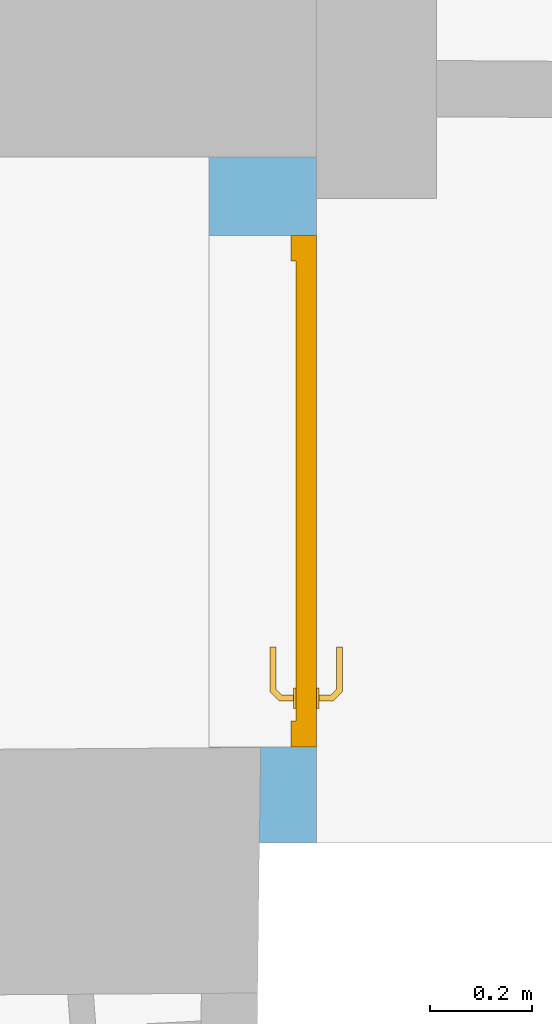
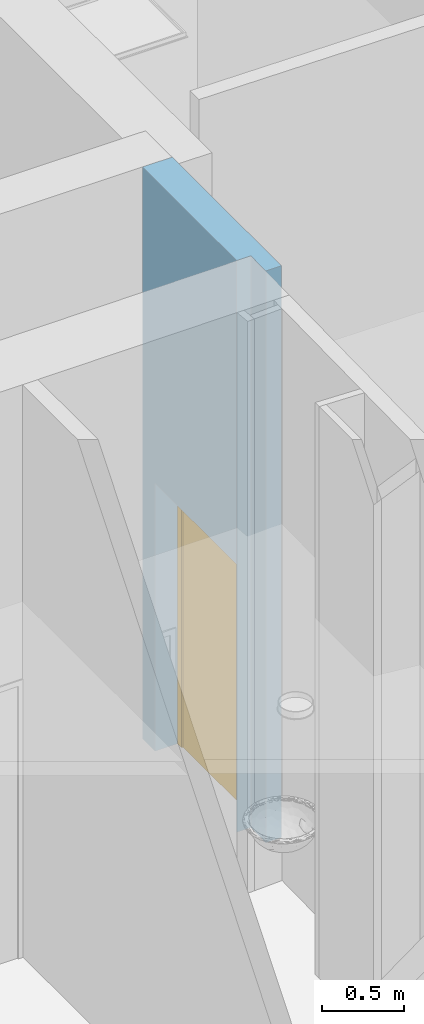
# One storey, part 42 of 128: 1 door, 1 opening, plus 1 element that does not belong to this part.
"""IFC2X3 building model written with IfcOpenShell, lengths in metres."""

from ifc_helpers import new_model, entity, si_unit, converted_unit, derived_unit, direction, frame, frame_2d, origin, place, context, subcontext, project, spatial, rectangle, extrude, faceted_brep, source, transform, mapped, material, layer, layer_set, type_object, type_shapes, element, fill, save


model = new_model("IFC2X3")

# Units and contexts
model_context = context("Model", 3, precision=1e-05, world=origin(), true_north=direction((6.123031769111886e-17, 1.0)))
body_context = subcontext(model_context, "Body", "Model", "MODEL_VIEW")
ifc_project = project(units=[si_unit("LENGTHUNIT", "METRE"), si_unit("AREAUNIT", "SQUARE_METRE"), converted_unit("PLANEANGLEUNIT", "DEGREE", entity("IfcPlaneAngleMeasure", 0.017453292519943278), si_unit("PLANEANGLEUNIT", "RADIAN"), dimensions=[0, 0, 0, 0, 0, 0, 0]), derived_unit("THERMALTRANSMITTANCEUNIT", [(si_unit("MASSUNIT", "GRAM", prefix="KILO"), 1), (si_unit("THERMODYNAMICTEMPERATUREUNIT", "KELVIN"), -1), (si_unit("TIMEUNIT", "SECOND"), -3)])], contexts=[model_context])

# Site, building, storey
site_placement = place(None, origin())
site = spatial("IfcSite", under=ifc_project, at=site_placement, Name="Default", CompositionType="ELEMENT")
building_placement = place(site_placement, origin())
building = spatial("IfcBuilding", under=site, at=building_placement, CompositionType="ELEMENT")
storey_placement = place(building_placement, origin())
storey = spatial("IfcBuildingStorey", under=building, at=storey_placement, Name="00_RDC CAF", CompositionType="ELEMENT", Elevation=2.4982504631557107e-13)

# Wall, opening, door
ifc_material_1 = material(Name="STR - Beton Mur")
ifc_layer = layer(ifc_material_1, 0.20999999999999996)
ifc_layer_set = layer_set([ifc_layer], Name="Mur de base:M_Int_Beton_210mm")
wall_type = type_object("IfcWallType", Name="Mur de base:M_Int_Beton_210mm", PredefinedType="STANDARD", material=ifc_layer_set)
wall_placement = place(storey_placement, frame((30.553265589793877, 131.55552141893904, 0.0), z_axis=(0.0, 0.0, 1.0), x_axis=(0.0, -1.0, 0.0)))
wall = element("IfcWall", 1, at=wall_placement, inside=storey, type_object=wall_type, Name="Mur de base:M_Int_Beton_210mm", ObjectType="Mur de base:M_Int_Beton_210mm", context=body_context, shape_type="Brep", body=[
    faceted_brep([(0.0, -0.10500000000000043, 0.0), (0.1527245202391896, -0.10500000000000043, 0.0), (0.1527245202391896, -0.10500000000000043, 2.0050000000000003), (1.1527245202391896, -0.10500000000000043, 2.0050000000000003), (1.1527245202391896, -0.10500000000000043, 0.0), (1.1548155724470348, -0.10500000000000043, 0.0), (1.1548155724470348, -0.10500000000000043, 4.278), (0.0, -0.10500000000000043, 4.278), (1.3405848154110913, 0.10500000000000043, 4.278), (1.3405848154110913, 0.10500000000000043, 0.0), (1.1527245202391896, 0.10500000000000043, 0.0), (1.1527245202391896, 0.10500000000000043, 2.0050000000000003), (0.1527245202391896, 0.10500000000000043, 2.0050000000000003), (0.1527245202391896, 0.10500000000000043, 0.0), (0.08097166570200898, 0.10500000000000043, 0.0), (0.0, 0.10500000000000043, 0.0), (0.0, 0.10500000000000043, 4.278), (0.08097166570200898, 0.10500000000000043, 4.278), (1.3405848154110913, -0.0063559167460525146, 4.278), (1.3405848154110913, -0.006355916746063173, 0.0), (1.154123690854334, -0.004082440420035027, 4.278), (1.154123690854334, -0.004082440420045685, 0.0)], [[[0, 1, 2, 3, 4, 5, 6, 7]], [[8, 9, 10, 11, 12, 13, 14, 15, 16, 17]], [[1, 0, 15, 14, 13]], [[9, 8, 18, 19]], [[8, 17, 16, 7, 6, 20, 18]], [[2, 12, 11, 3]], [[12, 2, 1, 13]], [[3, 11, 10, 4]], [[21, 20, 6, 5]], [[20, 21, 19, 18]], [[0, 7, 16, 15]], [[10, 9, 19, 21, 5, 4]]]),
])
opening_placement = place(wall_placement, frame((0.15272452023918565, -0.10499999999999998, 0.0)))
opening = element("IfcOpeningElement", 2, at=opening_placement, cuts=wall, Name="P_Tunnel_Simple:P_Int_Simple_Pleine_930x1970mm:1", ObjectType="Opening", context=body_context, shape_type="SweptSolid", body=[
    extrude(rectangle(XDim=2.005, YDim=1.0, at=frame_2d((1.0025, 0.5), x_axis=(1.0, 0.0))), frame((0.0, 0.0, 0.0), z_axis=(0.0, 1.0, 0.0), x_axis=(0.0, 0.0, 1.0)), (0.0, 0.0, 1.0), 0.20999999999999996),
])
ifc_material_2 = material(Name="ARC - M.In - Blanc")
door_style = type_object("IfcDoorStyle", Name="P_Tunnel_Simple:P_Int_Simple_Pleine_930x1970mm", ConstructionType="NOTDEFINED", OperationType="NOTDEFINED", ParameterTakesPrecedence=False, Sizeable=False, material=ifc_material_2)
shared_shape = source(origin(), body_context, "Body", "Brep", [
    faceted_brep([(1.0929747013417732, 0.04500000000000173, 1.0077804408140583), (1.0890000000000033, 0.045000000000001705, 1.0069999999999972), (1.0889999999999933, 0.045000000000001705, 0.9929999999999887), (1.0929747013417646, 0.04500000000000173, 0.9922195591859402), (1.0970252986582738, 0.04500000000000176, 0.9922195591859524), (1.1010000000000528, 0.04500000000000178, 0.9930000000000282), (1.1010000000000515, 0.04500000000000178, 1.006999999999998), (1.0970252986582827, 0.04500000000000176, 1.0077804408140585), (1.1010000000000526, 0.06748520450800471, 0.9930000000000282), (1.1010000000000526, 0.06748520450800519, 1.006999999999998), (1.0970252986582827, 0.06913157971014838, 1.0077804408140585), (1.1108389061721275, 0.08294518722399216, 1.0077804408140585), (1.1091610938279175, 0.08699578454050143, 1.0077804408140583), (1.0929747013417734, 0.07080939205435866, 1.0077804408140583), (1.0890000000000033, 0.07245576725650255, 1.0069999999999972), (1.089000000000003, 0.07245576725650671, 0.9929999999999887), (1.0929747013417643, 0.07080939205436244, 0.9922195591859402), (1.1091610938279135, 0.08699578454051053, 0.9922195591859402), (1.1108389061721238, 0.08294518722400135, 0.9922195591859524), (1.0970252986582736, 0.0691315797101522, 0.9922195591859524), (1.112485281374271, 0.07897048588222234, 0.9930000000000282), (1.1124852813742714, 0.07897048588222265, 1.006999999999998), (1.1075147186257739, 0.09097048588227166, 1.0069999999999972), (1.1075147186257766, 0.09097048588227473, 0.9929999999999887), (1.1950457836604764, 0.07897048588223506, 0.9930000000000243), (1.1950457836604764, 0.08294518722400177, 0.9922195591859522), (1.1950457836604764, 0.08699578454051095, 0.99221955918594), (1.1950457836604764, 0.09097048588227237, 0.9929999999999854), (1.1950457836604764, 0.09097048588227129, 1.0069999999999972), (1.1950457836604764, 0.0869957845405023, 1.007780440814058), (1.1950457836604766, 0.08294518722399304, 1.0077804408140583), (1.1950457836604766, 0.07897048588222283, 1.0069999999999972), (1.1537655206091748, 0.07897048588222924, 0.9930000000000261), (1.1537655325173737, 0.07897048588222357, 1.0069999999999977), (1.152942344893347, 0.08497048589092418, 1.0078786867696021), (1.1474452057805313, 0.09097048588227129, 1.0069999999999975), (1.1474452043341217, 0.09097048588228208, 0.9929999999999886), (1.1529423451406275, 0.08497048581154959, 0.9921213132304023)], [[[0, 1, 2, 3, 4, 5, 6, 7]], [[6, 5, 8, 9]], [[9, 10, 7, 6]], [[10, 11, 12, 13, 0, 7]], [[13, 14, 1, 0]], [[2, 1, 14, 15]], [[15, 16, 3, 2]], [[16, 17, 18, 19, 4, 3]], [[19, 8, 5, 4]], [[9, 8, 20, 21]], [[21, 11, 10, 9]], [[12, 22, 14, 13]], [[15, 14, 22, 23]], [[23, 17, 16, 15]], [[18, 20, 8, 19]], [[24, 25, 26, 27, 28, 29, 30, 31]], [[21, 20, 32, 24, 31, 33]], [[33, 30, 34]], [[35, 34, 29]], [[21, 33, 11]], [[33, 31, 30]], [[28, 35, 29]], [[22, 12, 35]], [[35, 12, 34]], [[12, 11, 34]], [[11, 33, 34]], [[29, 34, 30]], [[22, 35, 28, 27, 36, 23]], [[36, 26, 37]], [[27, 26, 36]], [[17, 23, 36]], [[37, 32, 18]], [[20, 18, 32]], [[32, 25, 24]], [[26, 25, 37]], [[25, 32, 37]], [[17, 36, 37]], [[17, 37, 18]]]),
    faceted_brep([(1.09297470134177, -0.004999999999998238, 1.0077804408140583), (1.0970252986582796, -0.00499999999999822, 1.0077804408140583), (1.1010000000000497, -0.0049999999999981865, 1.006999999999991), (1.101000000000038, -0.0049999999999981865, 0.9930000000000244), (1.0970252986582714, -0.00499999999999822, 0.9922195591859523), (1.0929747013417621, -0.004999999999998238, 0.9922195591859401), (1.0890000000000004, -0.0049999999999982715, 0.9929999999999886), (1.0890000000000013, -0.0049999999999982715, 1.0069999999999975), (1.0890000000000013, -0.032650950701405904, 1.0069999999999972), (1.09297470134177, -0.031004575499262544, 1.0077804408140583), (1.1090235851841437, -0.04705345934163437, 1.0077804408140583), (1.1107013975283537, -0.04300286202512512, 1.0077804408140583), (1.0970252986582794, -0.029326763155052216, 1.0077804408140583), (1.1010000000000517, -0.02768038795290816, 1.0069999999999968), (1.10100000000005, -0.027680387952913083, 0.9930000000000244), (1.0970252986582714, -0.0293267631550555, 0.9922195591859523), (1.1107013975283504, -0.043002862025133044, 0.9922195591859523), (1.1090235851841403, -0.04705345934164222, 0.9922195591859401), (1.0929747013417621, -0.031004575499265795, 0.9922195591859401), (1.0889999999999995, -0.03265095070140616, 0.9929999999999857), (1.1073772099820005, -0.05102816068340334, 1.0069999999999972), (1.1123477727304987, -0.039028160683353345, 1.0069999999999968), (1.112347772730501, -0.039028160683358, 0.9930000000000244), (1.1073772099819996, -0.05102816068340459, 0.9929999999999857), (1.195018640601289, -0.05102816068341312, 0.9929999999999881), (1.195018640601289, -0.047053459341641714, 0.9922195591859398), (1.195018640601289, -0.04300286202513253, 0.992219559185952), (1.195018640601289, -0.039028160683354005, 0.9930000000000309), (1.195018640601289, -0.03902816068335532, 1.0069999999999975), (1.195018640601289, -0.04300286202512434, 1.007780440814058), (1.195018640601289, -0.047053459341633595, 1.0077804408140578), (1.195018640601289, -0.051028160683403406, 1.0069999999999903), (1.14730769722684, -0.051028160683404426, 1.0069999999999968), (1.1528600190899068, -0.04502816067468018, 1.007878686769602), (1.1536832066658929, -0.03902816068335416, 1.0069999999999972), (1.1536832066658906, -0.039028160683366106, 0.9930000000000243), (1.152860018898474, -0.04502816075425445, 0.9921213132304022), (1.147307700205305, -0.05102816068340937, 0.992999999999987)], [[[0, 1, 2, 3, 4, 5, 6, 7]], [[8, 9, 0, 7]], [[9, 10, 11, 12, 1, 0]], [[12, 13, 2, 1]], [[3, 2, 13, 14]], [[14, 15, 4, 3]], [[15, 16, 17, 18, 5, 4]], [[18, 19, 6, 5]], [[7, 6, 19, 8]], [[20, 10, 9, 8]], [[11, 21, 13, 12]], [[14, 13, 21, 22]], [[22, 16, 15, 14]], [[17, 23, 19, 18]], [[8, 19, 23, 20]], [[24, 25, 26, 27, 28, 29, 30, 31]], [[32, 30, 33]], [[31, 30, 32]], [[10, 20, 32]], [[33, 34, 11]], [[21, 11, 34]], [[34, 29, 28]], [[30, 29, 33]], [[29, 34, 33]], [[10, 32, 33]], [[10, 33, 11]], [[22, 21, 34, 28, 27, 35]], [[35, 26, 36]], [[37, 36, 25]], [[22, 35, 16]], [[35, 27, 26]], [[24, 37, 25]], [[23, 17, 37]], [[37, 17, 36]], [[17, 16, 36]], [[16, 35, 36]], [[25, 36, 26]], [[20, 23, 37, 24, 31, 32]]]),
    faceted_brep([(1.1053527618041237, 0.04000000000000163, 0.866003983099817), (1.1150000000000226, 0.040000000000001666, 0.8700000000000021), (1.1150000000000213, 0.040000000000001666, 1.0800000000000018), (1.1053527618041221, 0.04000000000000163, 1.083996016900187), (1.0950000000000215, 0.04000000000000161, 1.0853589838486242), (1.084647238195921, 0.040000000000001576, 1.0839960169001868), (1.075000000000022, 0.04000000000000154, 1.0800000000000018), (1.0750000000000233, 0.04000000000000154, 0.8700000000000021), (1.0846472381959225, 0.040000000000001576, 0.8660039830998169), (1.095000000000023, 0.04000000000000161, 0.8646410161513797), (1.1053527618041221, 0.04500000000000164, 1.083996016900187), (1.115000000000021, 0.04500000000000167, 1.0800000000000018), (1.1150000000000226, 0.04500000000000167, 0.8700000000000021), (1.1053527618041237, 0.04500000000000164, 0.866003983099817), (1.095000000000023, 0.045000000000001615, 0.8646410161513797), (1.0846472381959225, 0.04500000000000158, 0.8660039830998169), (1.0750000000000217, 0.045000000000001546, 0.870000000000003), (1.075000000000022, 0.045000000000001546, 1.0800000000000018), (1.084647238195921, 0.04500000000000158, 1.0839960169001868), (1.0950000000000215, 0.045000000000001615, 1.0853589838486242)], [[[0, 1, 2, 3, 4, 5, 6, 7, 8, 9]], [[10, 11, 12, 13, 14, 15, 16, 17, 18, 19]], [[11, 10, 3, 2]], [[3, 10, 19, 4]], [[19, 18, 5, 4]], [[18, 17, 6, 5]], [[7, 6, 17, 16]], [[16, 15, 8, 7]], [[8, 15, 14, 9]], [[14, 13, 0, 9]], [[13, 12, 1, 0]], [[2, 1, 12, 11]]]),
    faceted_brep([(1.105352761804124, -0.004999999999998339, 0.866003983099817), (1.1150000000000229, -0.004999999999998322, 0.8700000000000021), (1.1150000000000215, -0.004999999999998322, 1.0800000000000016), (1.1053527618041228, -0.004999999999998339, 1.0839960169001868), (1.095000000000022, -0.004999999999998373, 1.0853589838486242), (1.0846472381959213, -0.004999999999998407, 1.083996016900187), (1.0750000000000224, -0.004999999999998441, 1.0800000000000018), (1.0750000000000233, -0.004999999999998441, 0.8700000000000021), (1.0846472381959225, -0.004999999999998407, 0.866003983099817), (1.095000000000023, -0.004999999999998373, 0.8646410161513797), (1.1053527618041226, 0.0, 1.0839960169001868), (1.1150000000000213, 0.0, 1.0800000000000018), (1.1150000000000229, 0.0, 0.8700000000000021), (1.105352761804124, 0.0, 0.866003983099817), (1.095000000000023, 0.0, 0.8646410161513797), (1.0846472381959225, 0.0, 0.866003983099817), (1.075000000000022, 0.0, 0.8700000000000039), (1.0750000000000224, 0.0, 1.0800000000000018), (1.0846472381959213, 0.0, 1.083996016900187), (1.095000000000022, 0.0, 1.0853589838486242)], [[[0, 1, 2, 3, 4, 5, 6, 7, 8, 9]], [[10, 11, 12, 13, 14, 15, 16, 17, 18, 19]], [[16, 15, 8, 7]], [[8, 15, 14, 9]], [[14, 13, 0, 9]], [[13, 12, 1, 0]], [[2, 1, 12, 11]], [[11, 10, 3, 2]], [[3, 10, 19, 4]], [[19, 18, 5, 4]], [[18, 17, 6, 5]], [[7, 6, 17, 16]]]),
    faceted_brep([(1.035000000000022, 0.040000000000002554, 1.97), (1.9650000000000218, 0.04000000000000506, 1.97), (1.9650000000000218, 0.04000000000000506, 0.0), (1.035000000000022, 0.040000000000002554, 0.0), (1.9650000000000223, 0.0, 1.97), (1.9650000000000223, 0.0, 0.0), (1.0350000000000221, 0.0, 0.0), (1.0350000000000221, 0.0, 1.97)], [[[0, 1, 2, 3]], [[2, 1, 4, 5]], [[3, 2, 5, 6]], [[0, 3, 6, 7]], [[7, 6, 5, 4]], [[1, 0, 7, 4]]]),
    faceted_brep([(2.0, 0.05000000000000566, 0.0), (2.0, 0.0, 0.0), (1.965000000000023, 0.0, 0.0), (1.9650000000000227, 0.040000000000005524, 0.0), (1.9500000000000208, 0.04000000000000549, 0.0), (1.9500000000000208, 0.050000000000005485, 0.0), (1.9500000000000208, 0.050000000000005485, 1.954999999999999), (1.050000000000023, 0.05000000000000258, 1.954999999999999), (1.050000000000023, 0.05000000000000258, 0.0), (1.0, 0.05000000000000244, 0.0), (1.0, 0.05000000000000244, 2.0050000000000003), (2.0, 0.05000000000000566, 2.005), (1.9500000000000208, 0.04000000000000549, 1.954999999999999), (1.9650000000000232, 0.04000000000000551, 1.9700000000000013), (1.0350000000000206, 0.04000000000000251, 1.9700000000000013), (1.0350000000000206, 0.04000000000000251, 0.0), (1.0500000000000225, 0.04000000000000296, 0.0), (1.0500000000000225, 0.04000000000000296, 1.9549999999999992), (1.965000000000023, 0.0, 1.9700000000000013), (2.0, 0.0, 2.0050000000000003), (1.0, 0.0, 2.0050000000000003), (1.0, 0.0, 0.0), (1.0350000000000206, 0.0, 0.0), (1.0350000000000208, 0.0, 1.9700000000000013)], [[[0, 1, 2, 3, 4, 5]], [[5, 6, 7, 8, 9, 10, 11, 0]], [[4, 12, 6, 5]], [[3, 13, 14, 15, 16, 17, 12, 4]], [[2, 18, 13, 3]], [[1, 19, 20, 21, 22, 23, 18, 2]], [[0, 11, 19, 1]], [[10, 9, 21, 20]], [[9, 8, 16, 15, 22, 21]], [[17, 16, 8, 7]], [[23, 22, 15, 14]], [[12, 17, 7, 6]], [[18, 23, 14, 13]], [[11, 10, 20, 19]]]),
])
type_shapes(door_style, [shared_shape])
door_placement = place(opening_placement, frame((2.0, 0.21000000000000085, 0.0), z_axis=(0.0, 0.0, 1.0), x_axis=(-1.0, 0.0, 0.0)))
door = element("IfcDoor", 3, at=door_placement, inside=storey, type_object=door_style, material=ifc_material_2, Name="P_Tunnel_Simple:P_Int_Simple_Pleine_930x1970mm", ObjectType="P_Tunnel_Simple:P_Int_Simple_Pleine_930x1970mm", OverallHeight=2.005, OverallWidth=0.9999999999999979, context=body_context, shape_type="MappedRepresentation", body=[
    mapped(shared_shape, transform((0.0, 0.0, 0.0), scale=1.0)),
])
fill(opening, door)

save(model, "model.ifc")
